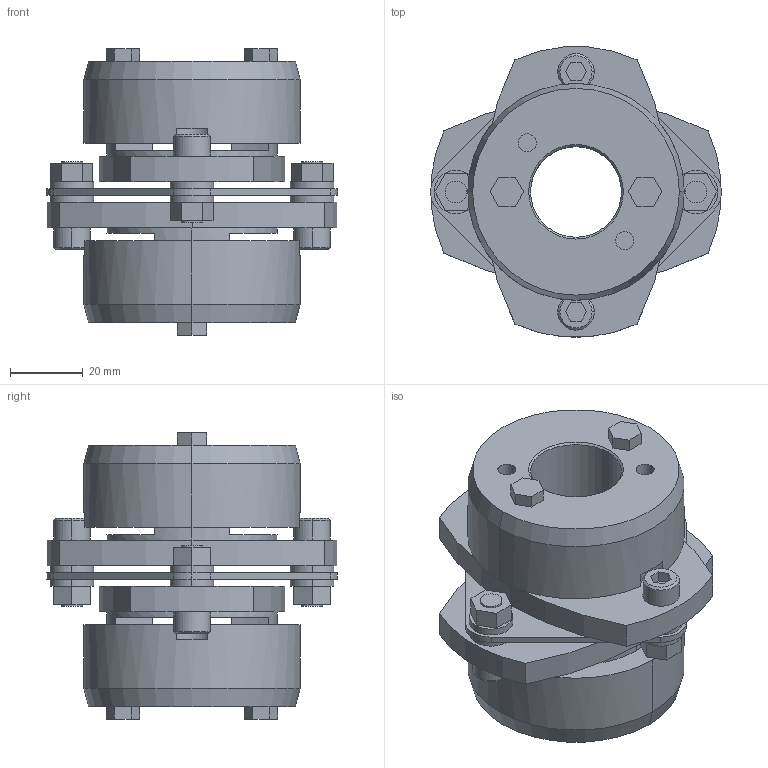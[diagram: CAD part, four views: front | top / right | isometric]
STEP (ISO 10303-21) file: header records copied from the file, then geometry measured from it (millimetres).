
FILE_DESCRIPTION((''),'2;1');
FILE_NAME('LCS-80T7-25×25.stp','2011-09-12T16:30:07',(''),(''),'AutoCAD STEP 2000i','AutoCAD 2000i',', , ');
FILE_SCHEMA(('CONFIG_CONTROL_DESIGN'));
Length unit declared in the file: millimetre
Products named in the file (10): LCS-80T7-24×24; 忣兜1; LC80T7-T024-1; LC80T7-T024; LC80T7-T022; LC80T7-T019-1; LC80T7-T019; LC80T7-T017-1; LC80T7-T017; LCS80-ITA
Assembly tree (9 placements, depth 2):
  LCS-80T7-24×24
    忣兜1
    LC80T7-T024-1
    LC80T7-T024
    LC80T7-T022
    LC80T7-T019-1
    LC80T7-T019
    LC80T7-T017-1
    LC80T7-T017
    LCS80-ITA
Bounding box: 80 x 79.95 x 78.75 mm (x, y, z)
Volume: 158472.5 mm3; surface area: 44158.5 mm2
Topology: 1 solids, 1 shells, 226 faces, 556 edges, 364 vertices
Faces by surface type: plane 122, cylinder 84, cone 20
Entity records: 6969 total; most frequent: DIRECTION 1240, CARTESIAN_POINT 1156, ORIENTED_EDGE 1112, EDGE_CURVE 556, AXIS2_PLACEMENT_3D 448, VERTEX_POINT 364, VECTOR 344, LINE 344
